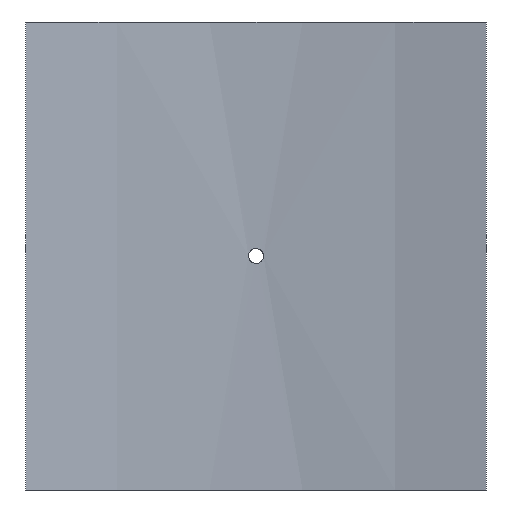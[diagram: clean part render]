
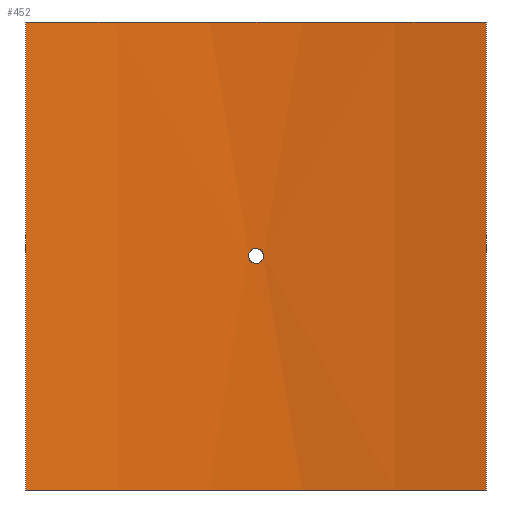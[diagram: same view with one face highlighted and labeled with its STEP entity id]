
A CAD part, front view. The second image highlights one B-rep face of the part: STEP entity #452.
In plain terms, the highlighted cylindrical face has radius 600 mm (diameter 1200 mm), a partial arc.
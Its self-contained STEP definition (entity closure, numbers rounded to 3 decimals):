
#19=B_SPLINE_CURVE_WITH_KNOTS('',3,(#788,#789,#790,#791,#792,#793,#794,
#795,#796,#797,#798,#799,#800,#801,#802,#803,#804,#805,#806,#807,#808,#809,
#810,#811,#812,#813,#814,#815,#816,#817,#818,#819,#820,#821),
 .UNSPECIFIED.,.T.,.F.,(4,2,2,2,2,2,2,2,2,2,2,2,2,2,2,2,4),(0.,0.181,
0.362,0.542,0.723,0.904,
1.085,1.266,1.446,1.627,1.808,
1.989,2.17,2.351,2.531,2.712,
2.893),.UNSPECIFIED.);
#43=LINE('',#1065,#62);
#44=LINE('',#1068,#63);
#62=VECTOR('',#661,10.);
#63=VECTOR('',#664,10.);
#76=CYLINDRICAL_SURFACE('',#530,600.);
#88=FACE_BOUND('',#167,.T.);
#127=FACE_OUTER_BOUND('',#166,.T.);
#166=EDGE_LOOP('',(#405,#406,#407,#408));
#167=EDGE_LOOP('',(#409));
#201=CIRCLE('',#529,600.);
#202=CIRCLE('',#531,600.);
#219=VERTEX_POINT('',#786);
#242=VERTEX_POINT('',#1058);
#243=VERTEX_POINT('',#1060);
#244=VERTEX_POINT('',#1064);
#245=VERTEX_POINT('',#1066);
#267=EDGE_CURVE('',#219,#219,#19,.T.);
#299=EDGE_CURVE('',#242,#243,#201,.T.);
#301=EDGE_CURVE('',#244,#242,#43,.T.);
#302=EDGE_CURVE('',#245,#244,#202,.T.);
#303=EDGE_CURVE('',#245,#243,#44,.T.);
#405=ORIENTED_EDGE('',*,*,#301,.F.);
#406=ORIENTED_EDGE('',*,*,#302,.F.);
#407=ORIENTED_EDGE('',*,*,#303,.T.);
#408=ORIENTED_EDGE('',*,*,#299,.F.);
#409=ORIENTED_EDGE('',*,*,#267,.T.);
#452=ADVANCED_FACE('',(#127,#88),#76,.F.);
#529=AXIS2_PLACEMENT_3D('',#1061,#656,#657);
#530=AXIS2_PLACEMENT_3D('',#1063,#659,#660);
#531=AXIS2_PLACEMENT_3D('',#1067,#662,#663);
#656=DIRECTION('center_axis',(0.,0.,1.));
#657=DIRECTION('ref_axis',(0.246,0.969,0.));
#659=DIRECTION('center_axis',(0.,0.,1.));
#660=DIRECTION('ref_axis',(0.246,0.969,0.));
#661=DIRECTION('',(0.,0.,-1.));
#662=DIRECTION('center_axis',(0.,0.,-1.));
#663=DIRECTION('ref_axis',(0.246,0.969,0.));
#664=DIRECTION('',(0.,0.,-1.));
#786=CARTESIAN_POINT('',(4.8,599.981,0.));
#788=CARTESIAN_POINT('Ctrl Pts',(4.8,599.981,0.));
#789=CARTESIAN_POINT('Ctrl Pts',(4.8,599.981,-0.603));
#790=CARTESIAN_POINT('Ctrl Pts',(4.68,599.982,-1.246));
#791=CARTESIAN_POINT('Ctrl Pts',(4.19,599.985,-2.428));
#792=CARTESIAN_POINT('Ctrl Pts',(3.82,599.988,-2.968));
#793=CARTESIAN_POINT('Ctrl Pts',(2.968,599.993,-3.82));
#794=CARTESIAN_POINT('Ctrl Pts',(2.428,599.995,-4.19));
#795=CARTESIAN_POINT('Ctrl Pts',(1.246,599.999,-4.68));
#796=CARTESIAN_POINT('Ctrl Pts',(0.603,600.,-4.8));
#797=CARTESIAN_POINT('Ctrl Pts',(-0.603,600.,-4.8));
#798=CARTESIAN_POINT('Ctrl Pts',(-1.246,599.999,-4.68));
#799=CARTESIAN_POINT('Ctrl Pts',(-2.428,599.995,-4.19));
#800=CARTESIAN_POINT('Ctrl Pts',(-2.968,599.993,-3.82));
#801=CARTESIAN_POINT('Ctrl Pts',(-3.82,599.988,-2.968));
#802=CARTESIAN_POINT('Ctrl Pts',(-4.19,599.985,-2.428));
#803=CARTESIAN_POINT('Ctrl Pts',(-4.68,599.982,-1.246));
#804=CARTESIAN_POINT('Ctrl Pts',(-4.8,599.981,-0.603));
#805=CARTESIAN_POINT('Ctrl Pts',(-4.8,599.981,0.603));
#806=CARTESIAN_POINT('Ctrl Pts',(-4.68,599.982,1.246));
#807=CARTESIAN_POINT('Ctrl Pts',(-4.19,599.985,2.428));
#808=CARTESIAN_POINT('Ctrl Pts',(-3.82,599.988,2.968));
#809=CARTESIAN_POINT('Ctrl Pts',(-2.968,599.993,3.82));
#810=CARTESIAN_POINT('Ctrl Pts',(-2.428,599.995,4.19));
#811=CARTESIAN_POINT('Ctrl Pts',(-1.246,599.999,4.68));
#812=CARTESIAN_POINT('Ctrl Pts',(-0.603,600.,4.8));
#813=CARTESIAN_POINT('Ctrl Pts',(0.603,600.,4.8));
#814=CARTESIAN_POINT('Ctrl Pts',(1.246,599.999,4.68));
#815=CARTESIAN_POINT('Ctrl Pts',(2.428,599.995,4.19));
#816=CARTESIAN_POINT('Ctrl Pts',(2.968,599.993,3.82));
#817=CARTESIAN_POINT('Ctrl Pts',(3.82,599.988,2.968));
#818=CARTESIAN_POINT('Ctrl Pts',(4.19,599.985,2.428));
#819=CARTESIAN_POINT('Ctrl Pts',(4.68,599.982,1.246));
#820=CARTESIAN_POINT('Ctrl Pts',(4.8,599.981,0.603));
#821=CARTESIAN_POINT('Ctrl Pts',(4.8,599.981,0.));
#1058=CARTESIAN_POINT('',(147.5,581.587,-150.));
#1060=CARTESIAN_POINT('',(-147.5,581.587,-150.));
#1061=CARTESIAN_POINT('Origin',(0.,0.,
-150.));
#1063=CARTESIAN_POINT('Origin',(0.,0.,
0.));
#1064=CARTESIAN_POINT('',(147.5,581.587,150.));
#1065=CARTESIAN_POINT('',(147.5,581.587,0.));
#1066=CARTESIAN_POINT('',(-147.5,581.587,150.));
#1067=CARTESIAN_POINT('Origin',(0.,0.,
150.));
#1068=CARTESIAN_POINT('',(-147.5,581.587,0.));
